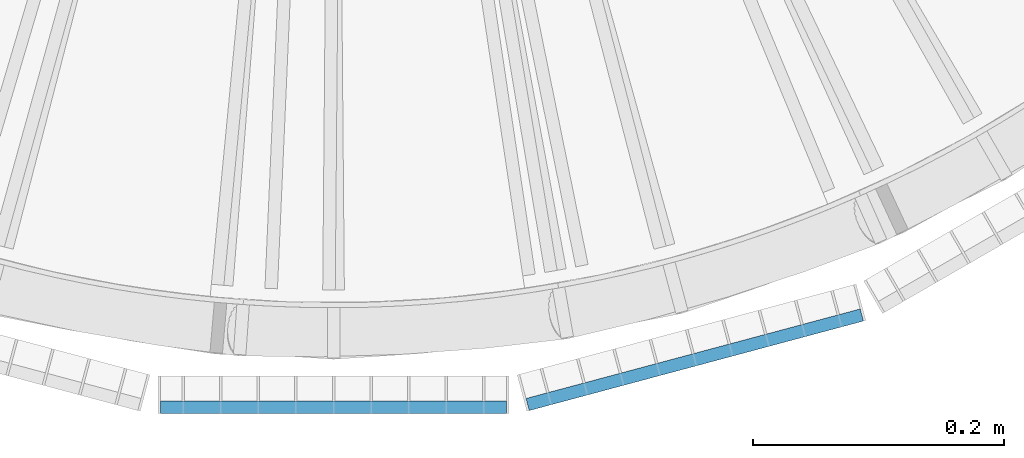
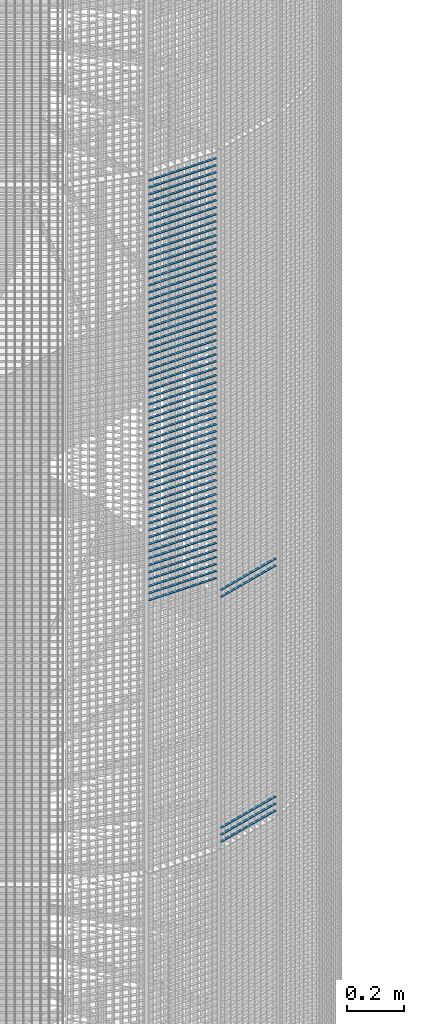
# One storey, part 161 of 1148: 66 beams, 2 elements without a shape of their own.
"""IFC2X3 building model written with IfcOpenShell, lengths in millimetres."""

from ifc_helpers import new_model, si_unit, frame, origin_with_axes, origin_2d_with_axis, place, context, subcontext, project, spatial, rectangle, extrude, material, type_object, element, aggregate, save


model = new_model("IFC2X3")

# Units and contexts
model_context = context("Model", 3, precision=1e-05, world=origin_with_axes())
body_context = subcontext(model_context, "Body", "Model", "MODEL_VIEW")
ifc_project = project(units=[si_unit("LENGTHUNIT", "METRE", prefix="MILLI"), si_unit("AREAUNIT", "SQUARE_METRE"), si_unit("VOLUMEUNIT", "CUBIC_METRE"), si_unit("MASSUNIT", "GRAM", prefix="KILO"), si_unit("TIMEUNIT", "SECOND"), si_unit("PLANEANGLEUNIT", "RADIAN"), si_unit("SOLIDANGLEUNIT", "STERADIAN"), si_unit("THERMODYNAMICTEMPERATUREUNIT", "DEGREE_CELSIUS"), si_unit("LUMINOUSINTENSITYUNIT", "LUMEN")], contexts=[model_context])

# Site, building, storey
site_placement = place(None, origin_with_axes())
site = spatial("IfcSite", under=ifc_project, at=site_placement, Name="Undefined", CompositionType="ELEMENT")
building_placement = place(site_placement, origin_with_axes())
building = spatial("IfcBuilding", under=site, at=building_placement, Name="Undefined", CompositionType="ELEMENT")
storey_placement = place(building_placement, origin_with_axes())
storey = spatial("IfcBuildingStorey", under=building, at=storey_placement, Name="Undefined", CompositionType="ELEMENT", Elevation=0.0)

# Assembly, beams
assembly_1_placement = place(storey_placement, origin_with_axes())
assembly_1 = element("IfcElementAssembly", 1, at=assembly_1_placement, inside=storey, Name="BORDURE", AssemblyPlace="NOTDEFINED", PredefinedType="NOTDEFINED")
ifc_material = material(Name="STEEL/S235JR")
beam_type = type_object("IfcBeamType", Name="PL2*10", PredefinedType="NOTDEFINED")
beam_1_placement = place(assembly_1_placement, frame((154.895926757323, -1111.25508286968, 4080.0), z_axis=(0.258819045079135, -0.965925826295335, 0.0), x_axis=(0.965925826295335, 0.258819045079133, 0.0)))
beam_1 = element("IfcBeam", 2, at=beam_1_placement, type_object=beam_type, material=ifc_material, Name="ENTRETOISE", context=body_context, shape_type="SweptSolid", body=[
    extrude(rectangle(XDim=2.0, YDim=10.0, at=origin_2d_with_axis()), frame((275.999999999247, 9.09494701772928e-13, 1.53210777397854e-14), z_axis=(-1.0, 0.0, 0.0), x_axis=(0.0, -1.0, 0.0)), (0.0, 0.0, 1.0), 276.0),
])
beam_2_placement = place(assembly_1_placement, frame((154.895926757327, -1111.25508286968, 3090.0), z_axis=(0.258819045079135, -0.965925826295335, 0.0), x_axis=(0.965925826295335, 0.258819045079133, 0.0)))
beam_2 = element("IfcBeam", 3, at=beam_2_placement, type_object=beam_type, material=ifc_material, Name="ENTRETOISE", context=body_context, shape_type="SweptSolid", body=[
    extrude(rectangle(XDim=2.0, YDim=10.0, at=origin_2d_with_axis()), frame((275.999999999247, 9.09494701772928e-13, 1.53210777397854e-14), z_axis=(-1.0, 0.0, 0.0), x_axis=(0.0, -1.0, 0.0)), (0.0, 0.0, 1.0), 276.0),
])
beam_3_placement = place(assembly_1_placement, frame((154.895926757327, -1111.25508286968, 3060.0), z_axis=(0.258819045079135, -0.965925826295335, 0.0), x_axis=(0.965925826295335, 0.258819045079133, 0.0)))
beam_3 = element("IfcBeam", 4, at=beam_3_placement, type_object=beam_type, material=ifc_material, Name="ENTRETOISE", context=body_context, shape_type="SweptSolid", body=[
    extrude(rectangle(XDim=2.0, YDim=10.0, at=origin_2d_with_axis()), frame((275.999999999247, 9.09494701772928e-13, 1.53210777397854e-14), z_axis=(-1.0, 0.0, 0.0), x_axis=(0.0, -1.0, 0.0)), (0.0, 0.0, 1.0), 276.0),
])
beam_4_placement = place(assembly_1_placement, frame((154.895926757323, -1111.25508286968, 4110.0), z_axis=(0.258819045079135, -0.965925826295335, 0.0), x_axis=(0.965925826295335, 0.258819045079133, 0.0)))
beam_4 = element("IfcBeam", 5, at=beam_4_placement, type_object=beam_type, material=ifc_material, Name="ENTRETOISE", context=body_context, shape_type="SweptSolid", body=[
    extrude(rectangle(XDim=2.0, YDim=10.0, at=origin_2d_with_axis()), frame((275.999999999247, 9.09494701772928e-13, 1.53210777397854e-14), z_axis=(-1.0, 0.0, 0.0), x_axis=(0.0, -1.0, 0.0)), (0.0, 0.0, 1.0), 276.0),
])
beam_5_placement = place(assembly_1_placement, frame((154.895926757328, -1111.25508286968, 3030.0), z_axis=(0.258819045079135, -0.965925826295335, 0.0), x_axis=(0.965925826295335, 0.258819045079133, 0.0)))
beam_5 = element("IfcBeam", 6, at=beam_5_placement, type_object=beam_type, material=ifc_material, Name="ENTRETOISE", context=body_context, shape_type="SweptSolid", body=[
    extrude(rectangle(XDim=2.0, YDim=10.0, at=origin_2d_with_axis()), frame((275.999999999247, 9.09494701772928e-13, 1.53210777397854e-14), z_axis=(-1.0, 0.0, 0.0), x_axis=(0.0, -1.0, 0.0)), (0.0, 0.0, 1.0), 276.0),
])
aggregate(assembly_1, [beam_1, beam_2, beam_3, beam_4, beam_5])

assembly_2_placement = place(storey_placement, origin_with_axes())
assembly_2 = element("IfcElementAssembly", 7, at=assembly_2_placement, inside=storey, Name="BORDURE", AssemblyPlace="NOTDEFINED", PredefinedType="NOTDEFINED")
beam_6_placement = place(assembly_2_placement, frame((-137.996003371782, -1113.47999999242, 5970.0), z_axis=(0.0, -1.0, 0.0), x_axis=(1.0, 0.0, 0.0)))
beam_6 = element("IfcBeam", 8, at=beam_6_placement, type_object=beam_type, material=ifc_material, Name="ENTRETOISE", context=body_context, shape_type="SweptSolid", body=[
    extrude(rectangle(XDim=2.0, YDim=10.0, at=origin_2d_with_axis()), frame((275.999999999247, 9.09494701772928e-13, 1.53210777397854e-14), z_axis=(-1.0, 0.0, 0.0), x_axis=(0.0, -1.0, 0.0)), (0.0, 0.0, 1.0), 276.0),
])
beam_7_placement = place(assembly_2_placement, frame((-137.996003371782, -1113.47999999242, 5940.0), z_axis=(0.0, -1.0, 0.0), x_axis=(1.0, 0.0, 0.0)))
beam_7 = element("IfcBeam", 9, at=beam_7_placement, type_object=beam_type, material=ifc_material, Name="ENTRETOISE", context=body_context, shape_type="SweptSolid", body=[
    extrude(rectangle(XDim=2.0, YDim=10.0, at=origin_2d_with_axis()), frame((275.999999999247, 9.09494701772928e-13, 1.53210777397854e-14), z_axis=(-1.0, 0.0, 0.0), x_axis=(0.0, -1.0, 0.0)), (0.0, 0.0, 1.0), 276.0),
])
beam_8_placement = place(assembly_2_placement, frame((-137.996003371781, -1113.47999999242, 5910.0), z_axis=(0.0, -1.0, 0.0), x_axis=(1.0, 0.0, 0.0)))
beam_8 = element("IfcBeam", 10, at=beam_8_placement, type_object=beam_type, material=ifc_material, Name="ENTRETOISE", context=body_context, shape_type="SweptSolid", body=[
    extrude(rectangle(XDim=2.0, YDim=10.0, at=origin_2d_with_axis()), frame((275.999999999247, 9.09494701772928e-13, 1.53210777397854e-14), z_axis=(-1.0, 0.0, 0.0), x_axis=(0.0, -1.0, 0.0)), (0.0, 0.0, 1.0), 276.0),
])
beam_9_placement = place(assembly_2_placement, frame((-137.996003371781, -1113.47999999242, 5880.0), z_axis=(0.0, -1.0, 0.0), x_axis=(1.0, 0.0, 0.0)))
beam_9 = element("IfcBeam", 11, at=beam_9_placement, type_object=beam_type, material=ifc_material, Name="ENTRETOISE", context=body_context, shape_type="SweptSolid", body=[
    extrude(rectangle(XDim=2.0, YDim=10.0, at=origin_2d_with_axis()), frame((275.999999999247, 9.09494701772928e-13, 1.53210777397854e-14), z_axis=(-1.0, 0.0, 0.0), x_axis=(0.0, -1.0, 0.0)), (0.0, 0.0, 1.0), 276.0),
])
beam_10_placement = place(assembly_2_placement, frame((-137.996003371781, -1113.47999999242, 5850.0), z_axis=(0.0, -1.0, 0.0), x_axis=(1.0, 0.0, 0.0)))
beam_10 = element("IfcBeam", 12, at=beam_10_placement, type_object=beam_type, material=ifc_material, Name="ENTRETOISE", context=body_context, shape_type="SweptSolid", body=[
    extrude(rectangle(XDim=2.0, YDim=10.0, at=origin_2d_with_axis()), frame((275.999999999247, 9.09494701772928e-13, 1.53210777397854e-14), z_axis=(-1.0, 0.0, 0.0), x_axis=(0.0, -1.0, 0.0)), (0.0, 0.0, 1.0), 276.0),
])
beam_11_placement = place(assembly_2_placement, frame((-137.996003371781, -1113.47999999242, 5820.0), z_axis=(0.0, -1.0, 0.0), x_axis=(1.0, 0.0, 0.0)))
beam_11 = element("IfcBeam", 13, at=beam_11_placement, type_object=beam_type, material=ifc_material, Name="ENTRETOISE", context=body_context, shape_type="SweptSolid", body=[
    extrude(rectangle(XDim=2.0, YDim=10.0, at=origin_2d_with_axis()), frame((275.999999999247, 9.09494701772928e-13, 1.53210777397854e-14), z_axis=(-1.0, 0.0, 0.0), x_axis=(0.0, -1.0, 0.0)), (0.0, 0.0, 1.0), 276.0),
])
beam_12_placement = place(assembly_2_placement, frame((-137.996003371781, -1113.47999999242, 5790.0), z_axis=(0.0, -1.0, 0.0), x_axis=(1.0, 0.0, 0.0)))
beam_12 = element("IfcBeam", 14, at=beam_12_placement, type_object=beam_type, material=ifc_material, Name="ENTRETOISE", context=body_context, shape_type="SweptSolid", body=[
    extrude(rectangle(XDim=2.0, YDim=10.0, at=origin_2d_with_axis()), frame((275.999999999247, 9.09494701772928e-13, 1.53210777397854e-14), z_axis=(-1.0, 0.0, 0.0), x_axis=(0.0, -1.0, 0.0)), (0.0, 0.0, 1.0), 276.0),
])
beam_13_placement = place(assembly_2_placement, frame((-137.996003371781, -1113.47999999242, 5760.0), z_axis=(0.0, -1.0, 0.0), x_axis=(1.0, 0.0, 0.0)))
beam_13 = element("IfcBeam", 15, at=beam_13_placement, type_object=beam_type, material=ifc_material, Name="ENTRETOISE", context=body_context, shape_type="SweptSolid", body=[
    extrude(rectangle(XDim=2.0, YDim=10.0, at=origin_2d_with_axis()), frame((275.999999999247, 9.09494701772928e-13, 1.53210777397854e-14), z_axis=(-1.0, 0.0, 0.0), x_axis=(0.0, -1.0, 0.0)), (0.0, 0.0, 1.0), 276.0),
])
beam_14_placement = place(assembly_2_placement, frame((-137.996003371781, -1113.47999999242, 5730.0), z_axis=(0.0, -1.0, 0.0), x_axis=(1.0, 0.0, 0.0)))
beam_14 = element("IfcBeam", 16, at=beam_14_placement, type_object=beam_type, material=ifc_material, Name="ENTRETOISE", context=body_context, shape_type="SweptSolid", body=[
    extrude(rectangle(XDim=2.0, YDim=10.0, at=origin_2d_with_axis()), frame((275.999999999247, 9.09494701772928e-13, 1.53210777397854e-14), z_axis=(-1.0, 0.0, 0.0), x_axis=(0.0, -1.0, 0.0)), (0.0, 0.0, 1.0), 276.0),
])
beam_15_placement = place(assembly_2_placement, frame((-137.996003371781, -1113.47999999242, 5700.0), z_axis=(0.0, -1.0, 0.0), x_axis=(1.0, 0.0, 0.0)))
beam_15 = element("IfcBeam", 17, at=beam_15_placement, type_object=beam_type, material=ifc_material, Name="ENTRETOISE", context=body_context, shape_type="SweptSolid", body=[
    extrude(rectangle(XDim=2.0, YDim=10.0, at=origin_2d_with_axis()), frame((275.999999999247, 9.09494701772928e-13, 1.53210777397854e-14), z_axis=(-1.0, 0.0, 0.0), x_axis=(0.0, -1.0, 0.0)), (0.0, 0.0, 1.0), 276.0),
])
beam_16_placement = place(assembly_2_placement, frame((-137.996003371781, -1113.47999999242, 5670.0), z_axis=(0.0, -1.0, 0.0), x_axis=(1.0, 0.0, 0.0)))
beam_16 = element("IfcBeam", 18, at=beam_16_placement, type_object=beam_type, material=ifc_material, Name="ENTRETOISE", context=body_context, shape_type="SweptSolid", body=[
    extrude(rectangle(XDim=2.0, YDim=10.0, at=origin_2d_with_axis()), frame((275.999999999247, 9.09494701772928e-13, 1.53210777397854e-14), z_axis=(-1.0, 0.0, 0.0), x_axis=(0.0, -1.0, 0.0)), (0.0, 0.0, 1.0), 276.0),
])
beam_17_placement = place(assembly_2_placement, frame((-137.996003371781, -1113.47999999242, 5640.0), z_axis=(0.0, -1.0, 0.0), x_axis=(1.0, 0.0, 0.0)))
beam_17 = element("IfcBeam", 19, at=beam_17_placement, type_object=beam_type, material=ifc_material, Name="ENTRETOISE", context=body_context, shape_type="SweptSolid", body=[
    extrude(rectangle(XDim=2.0, YDim=10.0, at=origin_2d_with_axis()), frame((275.999999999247, 9.09494701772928e-13, 1.53210777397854e-14), z_axis=(-1.0, 0.0, 0.0), x_axis=(0.0, -1.0, 0.0)), (0.0, 0.0, 1.0), 276.0),
])
beam_18_placement = place(assembly_2_placement, frame((-137.99600337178, -1113.47999999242, 5610.0), z_axis=(0.0, -1.0, 0.0), x_axis=(1.0, 0.0, 0.0)))
beam_18 = element("IfcBeam", 20, at=beam_18_placement, type_object=beam_type, material=ifc_material, Name="ENTRETOISE", context=body_context, shape_type="SweptSolid", body=[
    extrude(rectangle(XDim=2.0, YDim=10.0, at=origin_2d_with_axis()), frame((275.999999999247, 9.09494701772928e-13, 1.53210777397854e-14), z_axis=(-1.0, 0.0, 0.0), x_axis=(0.0, -1.0, 0.0)), (0.0, 0.0, 1.0), 276.0),
])
beam_19_placement = place(assembly_2_placement, frame((-137.99600337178, -1113.47999999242, 5580.0), z_axis=(0.0, -1.0, 0.0), x_axis=(1.0, 0.0, 0.0)))
beam_19 = element("IfcBeam", 21, at=beam_19_placement, type_object=beam_type, material=ifc_material, Name="ENTRETOISE", context=body_context, shape_type="SweptSolid", body=[
    extrude(rectangle(XDim=2.0, YDim=10.0, at=origin_2d_with_axis()), frame((275.999999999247, 9.09494701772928e-13, 1.53210777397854e-14), z_axis=(-1.0, 0.0, 0.0), x_axis=(0.0, -1.0, 0.0)), (0.0, 0.0, 1.0), 276.0),
])
beam_20_placement = place(assembly_2_placement, frame((-137.99600337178, -1113.47999999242, 5550.0), z_axis=(0.0, -1.0, 0.0), x_axis=(1.0, 0.0, 0.0)))
beam_20 = element("IfcBeam", 22, at=beam_20_placement, type_object=beam_type, material=ifc_material, Name="ENTRETOISE", context=body_context, shape_type="SweptSolid", body=[
    extrude(rectangle(XDim=2.0, YDim=10.0, at=origin_2d_with_axis()), frame((275.999999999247, 9.09494701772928e-13, 1.53210777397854e-14), z_axis=(-1.0, 0.0, 0.0), x_axis=(0.0, -1.0, 0.0)), (0.0, 0.0, 1.0), 276.0),
])
beam_21_placement = place(assembly_2_placement, frame((-137.99600337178, -1113.47999999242, 5520.0), z_axis=(0.0, -1.0, 0.0), x_axis=(1.0, 0.0, 0.0)))
beam_21 = element("IfcBeam", 23, at=beam_21_placement, type_object=beam_type, material=ifc_material, Name="ENTRETOISE", context=body_context, shape_type="SweptSolid", body=[
    extrude(rectangle(XDim=2.0, YDim=10.0, at=origin_2d_with_axis()), frame((275.999999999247, 9.09494701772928e-13, 1.53210777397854e-14), z_axis=(-1.0, 0.0, 0.0), x_axis=(0.0, -1.0, 0.0)), (0.0, 0.0, 1.0), 276.0),
])
beam_22_placement = place(assembly_2_placement, frame((-137.99600337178, -1113.47999999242, 5490.0), z_axis=(0.0, -1.0, 0.0), x_axis=(1.0, 0.0, 0.0)))
beam_22 = element("IfcBeam", 24, at=beam_22_placement, type_object=beam_type, material=ifc_material, Name="ENTRETOISE", context=body_context, shape_type="SweptSolid", body=[
    extrude(rectangle(XDim=2.0, YDim=10.0, at=origin_2d_with_axis()), frame((275.999999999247, 9.09494701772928e-13, 1.53210777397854e-14), z_axis=(-1.0, 0.0, 0.0), x_axis=(0.0, -1.0, 0.0)), (0.0, 0.0, 1.0), 276.0),
])
beam_23_placement = place(assembly_2_placement, frame((-137.99600337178, -1113.47999999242, 5460.0), z_axis=(0.0, -1.0, 0.0), x_axis=(1.0, 0.0, 0.0)))
beam_23 = element("IfcBeam", 25, at=beam_23_placement, type_object=beam_type, material=ifc_material, Name="ENTRETOISE", context=body_context, shape_type="SweptSolid", body=[
    extrude(rectangle(XDim=2.0, YDim=10.0, at=origin_2d_with_axis()), frame((275.999999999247, 9.09494701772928e-13, 1.53210777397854e-14), z_axis=(-1.0, 0.0, 0.0), x_axis=(0.0, -1.0, 0.0)), (0.0, 0.0, 1.0), 276.0),
])
beam_24_placement = place(assembly_2_placement, frame((-137.99600337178, -1113.47999999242, 5430.0), z_axis=(0.0, -1.0, 0.0), x_axis=(1.0, 0.0, 0.0)))
beam_24 = element("IfcBeam", 26, at=beam_24_placement, type_object=beam_type, material=ifc_material, Name="ENTRETOISE", context=body_context, shape_type="SweptSolid", body=[
    extrude(rectangle(XDim=2.0, YDim=10.0, at=origin_2d_with_axis()), frame((275.999999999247, 9.09494701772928e-13, 1.53210777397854e-14), z_axis=(-1.0, 0.0, 0.0), x_axis=(0.0, -1.0, 0.0)), (0.0, 0.0, 1.0), 276.0),
])
beam_25_placement = place(assembly_2_placement, frame((-137.99600337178, -1113.47999999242, 5400.0), z_axis=(0.0, -1.0, 0.0), x_axis=(1.0, 0.0, 0.0)))
beam_25 = element("IfcBeam", 27, at=beam_25_placement, type_object=beam_type, material=ifc_material, Name="ENTRETOISE", context=body_context, shape_type="SweptSolid", body=[
    extrude(rectangle(XDim=2.0, YDim=10.0, at=origin_2d_with_axis()), frame((275.999999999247, 9.09494701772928e-13, 1.53210777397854e-14), z_axis=(-1.0, 0.0, 0.0), x_axis=(0.0, -1.0, 0.0)), (0.0, 0.0, 1.0), 276.0),
])
beam_26_placement = place(assembly_2_placement, frame((-137.99600337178, -1113.47999999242, 5370.0), z_axis=(0.0, -1.0, 0.0), x_axis=(1.0, 0.0, 0.0)))
beam_26 = element("IfcBeam", 28, at=beam_26_placement, type_object=beam_type, material=ifc_material, Name="ENTRETOISE", context=body_context, shape_type="SweptSolid", body=[
    extrude(rectangle(XDim=2.0, YDim=10.0, at=origin_2d_with_axis()), frame((275.999999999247, 9.09494701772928e-13, 1.53210777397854e-14), z_axis=(-1.0, 0.0, 0.0), x_axis=(0.0, -1.0, 0.0)), (0.0, 0.0, 1.0), 276.0),
])
beam_27_placement = place(assembly_2_placement, frame((-137.99600337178, -1113.47999999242, 5340.0), z_axis=(0.0, -1.0, 0.0), x_axis=(1.0, 0.0, 0.0)))
beam_27 = element("IfcBeam", 29, at=beam_27_placement, type_object=beam_type, material=ifc_material, Name="ENTRETOISE", context=body_context, shape_type="SweptSolid", body=[
    extrude(rectangle(XDim=2.0, YDim=10.0, at=origin_2d_with_axis()), frame((275.999999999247, 9.09494701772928e-13, 1.53210777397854e-14), z_axis=(-1.0, 0.0, 0.0), x_axis=(0.0, -1.0, 0.0)), (0.0, 0.0, 1.0), 276.0),
])
beam_28_placement = place(assembly_2_placement, frame((-137.996003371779, -1113.47999999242, 5310.0), z_axis=(0.0, -1.0, 0.0), x_axis=(1.0, 0.0, 0.0)))
beam_28 = element("IfcBeam", 30, at=beam_28_placement, type_object=beam_type, material=ifc_material, Name="ENTRETOISE", context=body_context, shape_type="SweptSolid", body=[
    extrude(rectangle(XDim=2.0, YDim=10.0, at=origin_2d_with_axis()), frame((275.999999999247, 9.09494701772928e-13, 1.53210777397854e-14), z_axis=(-1.0, 0.0, 0.0), x_axis=(0.0, -1.0, 0.0)), (0.0, 0.0, 1.0), 276.0),
])
beam_29_placement = place(assembly_2_placement, frame((-137.996003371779, -1113.47999999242, 5280.0), z_axis=(0.0, -1.0, 0.0), x_axis=(1.0, 0.0, 0.0)))
beam_29 = element("IfcBeam", 31, at=beam_29_placement, type_object=beam_type, material=ifc_material, Name="ENTRETOISE", context=body_context, shape_type="SweptSolid", body=[
    extrude(rectangle(XDim=2.0, YDim=10.0, at=origin_2d_with_axis()), frame((275.999999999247, 9.09494701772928e-13, 1.53210777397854e-14), z_axis=(-1.0, 0.0, 0.0), x_axis=(0.0, -1.0, 0.0)), (0.0, 0.0, 1.0), 276.0),
])
beam_30_placement = place(assembly_2_placement, frame((-137.996003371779, -1113.47999999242, 5250.0), z_axis=(0.0, -1.0, 0.0), x_axis=(1.0, 0.0, 0.0)))
beam_30 = element("IfcBeam", 32, at=beam_30_placement, type_object=beam_type, material=ifc_material, Name="ENTRETOISE", context=body_context, shape_type="SweptSolid", body=[
    extrude(rectangle(XDim=2.0, YDim=10.0, at=origin_2d_with_axis()), frame((275.999999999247, 9.09494701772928e-13, 1.53210777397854e-14), z_axis=(-1.0, 0.0, 0.0), x_axis=(0.0, -1.0, 0.0)), (0.0, 0.0, 1.0), 276.0),
])
beam_31_placement = place(assembly_2_placement, frame((-137.996003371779, -1113.47999999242, 5220.0), z_axis=(0.0, -1.0, 0.0), x_axis=(1.0, 0.0, 0.0)))
beam_31 = element("IfcBeam", 33, at=beam_31_placement, type_object=beam_type, material=ifc_material, Name="ENTRETOISE", context=body_context, shape_type="SweptSolid", body=[
    extrude(rectangle(XDim=2.0, YDim=10.0, at=origin_2d_with_axis()), frame((275.999999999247, 9.09494701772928e-13, 1.53210777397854e-14), z_axis=(-1.0, 0.0, 0.0), x_axis=(0.0, -1.0, 0.0)), (0.0, 0.0, 1.0), 276.0),
])
beam_32_placement = place(assembly_2_placement, frame((-137.996003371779, -1113.47999999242, 5190.0), z_axis=(0.0, -1.0, 0.0), x_axis=(1.0, 0.0, 0.0)))
beam_32 = element("IfcBeam", 34, at=beam_32_placement, type_object=beam_type, material=ifc_material, Name="ENTRETOISE", context=body_context, shape_type="SweptSolid", body=[
    extrude(rectangle(XDim=2.0, YDim=10.0, at=origin_2d_with_axis()), frame((275.999999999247, 9.09494701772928e-13, 1.53210777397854e-14), z_axis=(-1.0, 0.0, 0.0), x_axis=(0.0, -1.0, 0.0)), (0.0, 0.0, 1.0), 276.0),
])
beam_33_placement = place(assembly_2_placement, frame((-137.996003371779, -1113.47999999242, 5160.0), z_axis=(0.0, -1.0, 0.0), x_axis=(1.0, 0.0, 0.0)))
beam_33 = element("IfcBeam", 35, at=beam_33_placement, type_object=beam_type, material=ifc_material, Name="ENTRETOISE", context=body_context, shape_type="SweptSolid", body=[
    extrude(rectangle(XDim=2.0, YDim=10.0, at=origin_2d_with_axis()), frame((275.999999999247, 9.09494701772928e-13, 1.53210777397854e-14), z_axis=(-1.0, 0.0, 0.0), x_axis=(0.0, -1.0, 0.0)), (0.0, 0.0, 1.0), 276.0),
])
beam_34_placement = place(assembly_2_placement, frame((-137.996003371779, -1113.47999999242, 5130.0), z_axis=(0.0, -1.0, 0.0), x_axis=(1.0, 0.0, 0.0)))
beam_34 = element("IfcBeam", 36, at=beam_34_placement, type_object=beam_type, material=ifc_material, Name="ENTRETOISE", context=body_context, shape_type="SweptSolid", body=[
    extrude(rectangle(XDim=2.0, YDim=10.0, at=origin_2d_with_axis()), frame((275.999999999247, 9.09494701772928e-13, 1.53210777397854e-14), z_axis=(-1.0, 0.0, 0.0), x_axis=(0.0, -1.0, 0.0)), (0.0, 0.0, 1.0), 276.0),
])
beam_35_placement = place(assembly_2_placement, frame((-137.996003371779, -1113.47999999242, 5100.0), z_axis=(0.0, -1.0, 0.0), x_axis=(1.0, 0.0, 0.0)))
beam_35 = element("IfcBeam", 37, at=beam_35_placement, type_object=beam_type, material=ifc_material, Name="ENTRETOISE", context=body_context, shape_type="SweptSolid", body=[
    extrude(rectangle(XDim=2.0, YDim=10.0, at=origin_2d_with_axis()), frame((275.999999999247, 9.09494701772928e-13, 1.53210777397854e-14), z_axis=(-1.0, 0.0, 0.0), x_axis=(0.0, -1.0, 0.0)), (0.0, 0.0, 1.0), 276.0),
])
beam_36_placement = place(assembly_2_placement, frame((-137.996003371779, -1113.47999999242, 5070.0), z_axis=(0.0, -1.0, 0.0), x_axis=(1.0, 0.0, 0.0)))
beam_36 = element("IfcBeam", 38, at=beam_36_placement, type_object=beam_type, material=ifc_material, Name="ENTRETOISE", context=body_context, shape_type="SweptSolid", body=[
    extrude(rectangle(XDim=2.0, YDim=10.0, at=origin_2d_with_axis()), frame((275.999999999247, 9.09494701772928e-13, 1.53210777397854e-14), z_axis=(-1.0, 0.0, 0.0), x_axis=(0.0, -1.0, 0.0)), (0.0, 0.0, 1.0), 276.0),
])
beam_37_placement = place(assembly_2_placement, frame((-137.996003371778, -1113.47999999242, 5040.0), z_axis=(0.0, -1.0, 0.0), x_axis=(1.0, 0.0, 0.0)))
beam_37 = element("IfcBeam", 39, at=beam_37_placement, type_object=beam_type, material=ifc_material, Name="ENTRETOISE", context=body_context, shape_type="SweptSolid", body=[
    extrude(rectangle(XDim=2.0, YDim=10.0, at=origin_2d_with_axis()), frame((275.999999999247, 9.09494701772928e-13, 1.53210777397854e-14), z_axis=(-1.0, 0.0, 0.0), x_axis=(0.0, -1.0, 0.0)), (0.0, 0.0, 1.0), 276.0),
])
beam_38_placement = place(assembly_2_placement, frame((-137.996003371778, -1113.47999999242, 5010.0), z_axis=(0.0, -1.0, 0.0), x_axis=(1.0, 0.0, 0.0)))
beam_38 = element("IfcBeam", 40, at=beam_38_placement, type_object=beam_type, material=ifc_material, Name="ENTRETOISE", context=body_context, shape_type="SweptSolid", body=[
    extrude(rectangle(XDim=2.0, YDim=10.0, at=origin_2d_with_axis()), frame((275.999999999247, 9.09494701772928e-13, 1.53210777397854e-14), z_axis=(-1.0, 0.0, 0.0), x_axis=(0.0, -1.0, 0.0)), (0.0, 0.0, 1.0), 276.0),
])
beam_39_placement = place(assembly_2_placement, frame((-137.996003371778, -1113.47999999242, 4980.0), z_axis=(0.0, -1.0, 0.0), x_axis=(1.0, 0.0, 0.0)))
beam_39 = element("IfcBeam", 41, at=beam_39_placement, type_object=beam_type, material=ifc_material, Name="ENTRETOISE", context=body_context, shape_type="SweptSolid", body=[
    extrude(rectangle(XDim=2.0, YDim=10.0, at=origin_2d_with_axis()), frame((275.999999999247, 9.09494701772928e-13, 1.53210777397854e-14), z_axis=(-1.0, 0.0, 0.0), x_axis=(0.0, -1.0, 0.0)), (0.0, 0.0, 1.0), 276.0),
])
beam_40_placement = place(assembly_2_placement, frame((-137.996003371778, -1113.47999999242, 4950.0), z_axis=(0.0, -1.0, 0.0), x_axis=(1.0, 0.0, 0.0)))
beam_40 = element("IfcBeam", 42, at=beam_40_placement, type_object=beam_type, material=ifc_material, Name="ENTRETOISE", context=body_context, shape_type="SweptSolid", body=[
    extrude(rectangle(XDim=2.0, YDim=10.0, at=origin_2d_with_axis()), frame((275.999999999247, 9.09494701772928e-13, 1.53210777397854e-14), z_axis=(-1.0, 0.0, 0.0), x_axis=(0.0, -1.0, 0.0)), (0.0, 0.0, 1.0), 276.0),
])
beam_41_placement = place(assembly_2_placement, frame((-137.996003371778, -1113.47999999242, 4920.0), z_axis=(0.0, -1.0, 0.0), x_axis=(1.0, 0.0, 0.0)))
beam_41 = element("IfcBeam", 43, at=beam_41_placement, type_object=beam_type, material=ifc_material, Name="ENTRETOISE", context=body_context, shape_type="SweptSolid", body=[
    extrude(rectangle(XDim=2.0, YDim=10.0, at=origin_2d_with_axis()), frame((275.999999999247, 9.09494701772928e-13, 1.53210777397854e-14), z_axis=(-1.0, 0.0, 0.0), x_axis=(0.0, -1.0, 0.0)), (0.0, 0.0, 1.0), 276.0),
])
beam_42_placement = place(assembly_2_placement, frame((-137.996003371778, -1113.47999999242, 4890.0), z_axis=(0.0, -1.0, 0.0), x_axis=(1.0, 0.0, 0.0)))
beam_42 = element("IfcBeam", 44, at=beam_42_placement, type_object=beam_type, material=ifc_material, Name="ENTRETOISE", context=body_context, shape_type="SweptSolid", body=[
    extrude(rectangle(XDim=2.0, YDim=10.0, at=origin_2d_with_axis()), frame((275.999999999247, 9.09494701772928e-13, 1.53210777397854e-14), z_axis=(-1.0, 0.0, 0.0), x_axis=(0.0, -1.0, 0.0)), (0.0, 0.0, 1.0), 276.0),
])
beam_43_placement = place(assembly_2_placement, frame((-137.996003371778, -1113.47999999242, 4860.0), z_axis=(0.0, -1.0, 0.0), x_axis=(1.0, 0.0, 0.0)))
beam_43 = element("IfcBeam", 45, at=beam_43_placement, type_object=beam_type, material=ifc_material, Name="ENTRETOISE", context=body_context, shape_type="SweptSolid", body=[
    extrude(rectangle(XDim=2.0, YDim=10.0, at=origin_2d_with_axis()), frame((275.999999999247, 9.09494701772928e-13, 1.53210777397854e-14), z_axis=(-1.0, 0.0, 0.0), x_axis=(0.0, -1.0, 0.0)), (0.0, 0.0, 1.0), 276.0),
])
beam_44_placement = place(assembly_2_placement, frame((-137.996003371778, -1113.47999999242, 4830.0), z_axis=(0.0, -1.0, 0.0), x_axis=(1.0, 0.0, 0.0)))
beam_44 = element("IfcBeam", 46, at=beam_44_placement, type_object=beam_type, material=ifc_material, Name="ENTRETOISE", context=body_context, shape_type="SweptSolid", body=[
    extrude(rectangle(XDim=2.0, YDim=10.0, at=origin_2d_with_axis()), frame((275.999999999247, 9.09494701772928e-13, 1.53210777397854e-14), z_axis=(-1.0, 0.0, 0.0), x_axis=(0.0, -1.0, 0.0)), (0.0, 0.0, 1.0), 276.0),
])
beam_45_placement = place(assembly_2_placement, frame((-137.996003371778, -1113.47999999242, 4800.0), z_axis=(0.0, -1.0, 0.0), x_axis=(1.0, 0.0, 0.0)))
beam_45 = element("IfcBeam", 47, at=beam_45_placement, type_object=beam_type, material=ifc_material, Name="ENTRETOISE", context=body_context, shape_type="SweptSolid", body=[
    extrude(rectangle(XDim=2.0, YDim=10.0, at=origin_2d_with_axis()), frame((275.999999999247, 9.09494701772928e-13, 1.53210777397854e-14), z_axis=(-1.0, 0.0, 0.0), x_axis=(0.0, -1.0, 0.0)), (0.0, 0.0, 1.0), 276.0),
])
beam_46_placement = place(assembly_2_placement, frame((-137.996003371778, -1113.47999999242, 4770.0), z_axis=(0.0, -1.0, 0.0), x_axis=(1.0, 0.0, 0.0)))
beam_46 = element("IfcBeam", 48, at=beam_46_placement, type_object=beam_type, material=ifc_material, Name="ENTRETOISE", context=body_context, shape_type="SweptSolid", body=[
    extrude(rectangle(XDim=2.0, YDim=10.0, at=origin_2d_with_axis()), frame((275.999999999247, 9.09494701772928e-13, 1.53210777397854e-14), z_axis=(-1.0, 0.0, 0.0), x_axis=(0.0, -1.0, 0.0)), (0.0, 0.0, 1.0), 276.0),
])
beam_47_placement = place(assembly_2_placement, frame((-137.996003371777, -1113.47999999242, 4740.0), z_axis=(0.0, -1.0, 0.0), x_axis=(1.0, 0.0, 0.0)))
beam_47 = element("IfcBeam", 49, at=beam_47_placement, type_object=beam_type, material=ifc_material, Name="ENTRETOISE", context=body_context, shape_type="SweptSolid", body=[
    extrude(rectangle(XDim=2.0, YDim=10.0, at=origin_2d_with_axis()), frame((275.999999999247, 9.09494701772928e-13, 1.53210777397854e-14), z_axis=(-1.0, 0.0, 0.0), x_axis=(0.0, -1.0, 0.0)), (0.0, 0.0, 1.0), 276.0),
])
beam_48_placement = place(assembly_2_placement, frame((-137.996003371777, -1113.47999999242, 4710.0), z_axis=(0.0, -1.0, 0.0), x_axis=(1.0, 0.0, 0.0)))
beam_48 = element("IfcBeam", 50, at=beam_48_placement, type_object=beam_type, material=ifc_material, Name="ENTRETOISE", context=body_context, shape_type="SweptSolid", body=[
    extrude(rectangle(XDim=2.0, YDim=10.0, at=origin_2d_with_axis()), frame((275.999999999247, 9.09494701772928e-13, 1.53210777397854e-14), z_axis=(-1.0, 0.0, 0.0), x_axis=(0.0, -1.0, 0.0)), (0.0, 0.0, 1.0), 276.0),
])
beam_49_placement = place(assembly_2_placement, frame((-137.996003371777, -1113.47999999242, 4680.0), z_axis=(0.0, -1.0, 0.0), x_axis=(1.0, 0.0, 0.0)))
beam_49 = element("IfcBeam", 51, at=beam_49_placement, type_object=beam_type, material=ifc_material, Name="ENTRETOISE", context=body_context, shape_type="SweptSolid", body=[
    extrude(rectangle(XDim=2.0, YDim=10.0, at=origin_2d_with_axis()), frame((275.999999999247, 9.09494701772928e-13, 1.53210777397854e-14), z_axis=(-1.0, 0.0, 0.0), x_axis=(0.0, -1.0, 0.0)), (0.0, 0.0, 1.0), 276.0),
])
beam_50_placement = place(assembly_2_placement, frame((-137.996003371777, -1113.47999999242, 4650.0), z_axis=(0.0, -1.0, 0.0), x_axis=(1.0, 0.0, 0.0)))
beam_50 = element("IfcBeam", 52, at=beam_50_placement, type_object=beam_type, material=ifc_material, Name="ENTRETOISE", context=body_context, shape_type="SweptSolid", body=[
    extrude(rectangle(XDim=2.0, YDim=10.0, at=origin_2d_with_axis()), frame((275.999999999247, 9.09494701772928e-13, 1.53210777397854e-14), z_axis=(-1.0, 0.0, 0.0), x_axis=(0.0, -1.0, 0.0)), (0.0, 0.0, 1.0), 276.0),
])
beam_51_placement = place(assembly_2_placement, frame((-137.996003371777, -1113.47999999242, 4620.0), z_axis=(0.0, -1.0, 0.0), x_axis=(1.0, 0.0, 0.0)))
beam_51 = element("IfcBeam", 53, at=beam_51_placement, type_object=beam_type, material=ifc_material, Name="ENTRETOISE", context=body_context, shape_type="SweptSolid", body=[
    extrude(rectangle(XDim=2.0, YDim=10.0, at=origin_2d_with_axis()), frame((275.999999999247, 9.09494701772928e-13, 1.53210777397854e-14), z_axis=(-1.0, 0.0, 0.0), x_axis=(0.0, -1.0, 0.0)), (0.0, 0.0, 1.0), 276.0),
])
beam_52_placement = place(assembly_2_placement, frame((-137.996003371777, -1113.47999999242, 4590.0), z_axis=(0.0, -1.0, 0.0), x_axis=(1.0, 0.0, 0.0)))
beam_52 = element("IfcBeam", 54, at=beam_52_placement, type_object=beam_type, material=ifc_material, Name="ENTRETOISE", context=body_context, shape_type="SweptSolid", body=[
    extrude(rectangle(XDim=2.0, YDim=10.0, at=origin_2d_with_axis()), frame((275.999999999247, 9.09494701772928e-13, 1.53210777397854e-14), z_axis=(-1.0, 0.0, 0.0), x_axis=(0.0, -1.0, 0.0)), (0.0, 0.0, 1.0), 276.0),
])
beam_53_placement = place(assembly_2_placement, frame((-137.996003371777, -1113.47999999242, 4560.0), z_axis=(0.0, -1.0, 0.0), x_axis=(1.0, 0.0, 0.0)))
beam_53 = element("IfcBeam", 55, at=beam_53_placement, type_object=beam_type, material=ifc_material, Name="ENTRETOISE", context=body_context, shape_type="SweptSolid", body=[
    extrude(rectangle(XDim=2.0, YDim=10.0, at=origin_2d_with_axis()), frame((275.999999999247, 9.09494701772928e-13, 1.53210777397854e-14), z_axis=(-1.0, 0.0, 0.0), x_axis=(0.0, -1.0, 0.0)), (0.0, 0.0, 1.0), 276.0),
])
beam_54_placement = place(assembly_2_placement, frame((-137.996003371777, -1113.47999999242, 4530.0), z_axis=(0.0, -1.0, 0.0), x_axis=(1.0, 0.0, 0.0)))
beam_54 = element("IfcBeam", 56, at=beam_54_placement, type_object=beam_type, material=ifc_material, Name="ENTRETOISE", context=body_context, shape_type="SweptSolid", body=[
    extrude(rectangle(XDim=2.0, YDim=10.0, at=origin_2d_with_axis()), frame((275.999999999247, 9.09494701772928e-13, 1.53210777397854e-14), z_axis=(-1.0, 0.0, 0.0), x_axis=(0.0, -1.0, 0.0)), (0.0, 0.0, 1.0), 276.0),
])
beam_55_placement = place(assembly_2_placement, frame((-137.996003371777, -1113.47999999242, 4500.0), z_axis=(0.0, -1.0, 0.0), x_axis=(1.0, 0.0, 0.0)))
beam_55 = element("IfcBeam", 57, at=beam_55_placement, type_object=beam_type, material=ifc_material, Name="ENTRETOISE", context=body_context, shape_type="SweptSolid", body=[
    extrude(rectangle(XDim=2.0, YDim=10.0, at=origin_2d_with_axis()), frame((275.999999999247, 9.09494701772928e-13, 1.53210777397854e-14), z_axis=(-1.0, 0.0, 0.0), x_axis=(0.0, -1.0, 0.0)), (0.0, 0.0, 1.0), 276.0),
])
beam_56_placement = place(assembly_2_placement, frame((-137.996003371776, -1113.47999999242, 4470.0), z_axis=(0.0, -1.0, 0.0), x_axis=(1.0, 0.0, 0.0)))
beam_56 = element("IfcBeam", 58, at=beam_56_placement, type_object=beam_type, material=ifc_material, Name="ENTRETOISE", context=body_context, shape_type="SweptSolid", body=[
    extrude(rectangle(XDim=2.0, YDim=10.0, at=origin_2d_with_axis()), frame((275.999999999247, 9.09494701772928e-13, 1.53210777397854e-14), z_axis=(-1.0, 0.0, 0.0), x_axis=(0.0, -1.0, 0.0)), (0.0, 0.0, 1.0), 276.0),
])
beam_57_placement = place(assembly_2_placement, frame((-137.996003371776, -1113.47999999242, 4440.0), z_axis=(0.0, -1.0, 0.0), x_axis=(1.0, 0.0, 0.0)))
beam_57 = element("IfcBeam", 59, at=beam_57_placement, type_object=beam_type, material=ifc_material, Name="ENTRETOISE", context=body_context, shape_type="SweptSolid", body=[
    extrude(rectangle(XDim=2.0, YDim=10.0, at=origin_2d_with_axis()), frame((275.999999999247, 9.09494701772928e-13, 1.53210777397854e-14), z_axis=(-1.0, 0.0, 0.0), x_axis=(0.0, -1.0, 0.0)), (0.0, 0.0, 1.0), 276.0),
])
beam_58_placement = place(assembly_2_placement, frame((-137.996003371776, -1113.47999999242, 4410.0), z_axis=(0.0, -1.0, 0.0), x_axis=(1.0, 0.0, 0.0)))
beam_58 = element("IfcBeam", 60, at=beam_58_placement, type_object=beam_type, material=ifc_material, Name="ENTRETOISE", context=body_context, shape_type="SweptSolid", body=[
    extrude(rectangle(XDim=2.0, YDim=10.0, at=origin_2d_with_axis()), frame((275.999999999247, 9.09494701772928e-13, 1.53210777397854e-14), z_axis=(-1.0, 0.0, 0.0), x_axis=(0.0, -1.0, 0.0)), (0.0, 0.0, 1.0), 276.0),
])
beam_59_placement = place(assembly_2_placement, frame((-137.996003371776, -1113.47999999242, 4380.0), z_axis=(0.0, -1.0, 0.0), x_axis=(1.0, 0.0, 0.0)))
beam_59 = element("IfcBeam", 61, at=beam_59_placement, type_object=beam_type, material=ifc_material, Name="ENTRETOISE", context=body_context, shape_type="SweptSolid", body=[
    extrude(rectangle(XDim=2.0, YDim=10.0, at=origin_2d_with_axis()), frame((275.999999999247, 9.09494701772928e-13, 1.53210777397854e-14), z_axis=(-1.0, 0.0, 0.0), x_axis=(0.0, -1.0, 0.0)), (0.0, 0.0, 1.0), 276.0),
])
beam_60_placement = place(assembly_2_placement, frame((-137.996003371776, -1113.47999999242, 4350.0), z_axis=(0.0, -1.0, 0.0), x_axis=(1.0, 0.0, 0.0)))
beam_60 = element("IfcBeam", 62, at=beam_60_placement, type_object=beam_type, material=ifc_material, Name="ENTRETOISE", context=body_context, shape_type="SweptSolid", body=[
    extrude(rectangle(XDim=2.0, YDim=10.0, at=origin_2d_with_axis()), frame((275.999999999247, 9.09494701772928e-13, 1.53210777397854e-14), z_axis=(-1.0, 0.0, 0.0), x_axis=(0.0, -1.0, 0.0)), (0.0, 0.0, 1.0), 276.0),
])
beam_61_placement = place(assembly_2_placement, frame((-137.996003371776, -1113.47999999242, 4320.0), z_axis=(0.0, -1.0, 0.0), x_axis=(1.0, 0.0, 0.0)))
beam_61 = element("IfcBeam", 63, at=beam_61_placement, type_object=beam_type, material=ifc_material, Name="ENTRETOISE", context=body_context, shape_type="SweptSolid", body=[
    extrude(rectangle(XDim=2.0, YDim=10.0, at=origin_2d_with_axis()), frame((275.999999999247, 9.09494701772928e-13, 1.53210777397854e-14), z_axis=(-1.0, 0.0, 0.0), x_axis=(0.0, -1.0, 0.0)), (0.0, 0.0, 1.0), 276.0),
])
beam_62_placement = place(assembly_2_placement, frame((-137.996003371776, -1113.47999999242, 4290.0), z_axis=(0.0, -1.0, 0.0), x_axis=(1.0, 0.0, 0.0)))
beam_62 = element("IfcBeam", 64, at=beam_62_placement, type_object=beam_type, material=ifc_material, Name="ENTRETOISE", context=body_context, shape_type="SweptSolid", body=[
    extrude(rectangle(XDim=2.0, YDim=10.0, at=origin_2d_with_axis()), frame((275.999999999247, 9.09494701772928e-13, 1.53210777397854e-14), z_axis=(-1.0, 0.0, 0.0), x_axis=(0.0, -1.0, 0.0)), (0.0, 0.0, 1.0), 276.0),
])
beam_63_placement = place(assembly_2_placement, frame((-137.996003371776, -1113.47999999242, 4260.0), z_axis=(0.0, -1.0, 0.0), x_axis=(1.0, 0.0, 0.0)))
beam_63 = element("IfcBeam", 65, at=beam_63_placement, type_object=beam_type, material=ifc_material, Name="ENTRETOISE", context=body_context, shape_type="SweptSolid", body=[
    extrude(rectangle(XDim=2.0, YDim=10.0, at=origin_2d_with_axis()), frame((275.999999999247, 9.09494701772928e-13, 1.53210777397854e-14), z_axis=(-1.0, 0.0, 0.0), x_axis=(0.0, -1.0, 0.0)), (0.0, 0.0, 1.0), 276.0),
])
beam_64_placement = place(assembly_2_placement, frame((-137.996003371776, -1113.47999999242, 4230.0), z_axis=(0.0, -1.0, 0.0), x_axis=(1.0, 0.0, 0.0)))
beam_64 = element("IfcBeam", 66, at=beam_64_placement, type_object=beam_type, material=ifc_material, Name="ENTRETOISE", context=body_context, shape_type="SweptSolid", body=[
    extrude(rectangle(XDim=2.0, YDim=10.0, at=origin_2d_with_axis()), frame((275.999999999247, 9.09494701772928e-13, 1.53210777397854e-14), z_axis=(-1.0, 0.0, 0.0), x_axis=(0.0, -1.0, 0.0)), (0.0, 0.0, 1.0), 276.0),
])
beam_65_placement = place(assembly_2_placement, frame((-137.996003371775, -1113.47999999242, 4200.0), z_axis=(0.0, -1.0, 0.0), x_axis=(1.0, 0.0, 0.0)))
beam_65 = element("IfcBeam", 67, at=beam_65_placement, type_object=beam_type, material=ifc_material, Name="ENTRETOISE", context=body_context, shape_type="SweptSolid", body=[
    extrude(rectangle(XDim=2.0, YDim=10.0, at=origin_2d_with_axis()), frame((275.999999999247, 9.09494701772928e-13, 1.53210777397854e-14), z_axis=(-1.0, 0.0, 0.0), x_axis=(0.0, -1.0, 0.0)), (0.0, 0.0, 1.0), 276.0),
])
beam_66_placement = place(assembly_2_placement, frame((-137.996003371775, -1113.47999999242, 4170.0), z_axis=(0.0, -1.0, 0.0), x_axis=(1.0, 0.0, 0.0)))
beam_66 = element("IfcBeam", 68, at=beam_66_placement, type_object=beam_type, material=ifc_material, Name="ENTRETOISE", context=body_context, shape_type="SweptSolid", body=[
    extrude(rectangle(XDim=2.0, YDim=10.0, at=origin_2d_with_axis()), frame((275.999999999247, 9.09494701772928e-13, 1.53210777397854e-14), z_axis=(-1.0, 0.0, 0.0), x_axis=(0.0, -1.0, 0.0)), (0.0, 0.0, 1.0), 276.0),
])
aggregate(assembly_2, [beam_6, beam_7, beam_8, beam_9, beam_10, beam_11, beam_12, beam_13, beam_14, beam_15, beam_16, beam_17, beam_18, beam_19, beam_20, beam_21, beam_22, beam_23, beam_24, beam_25, beam_26, beam_27, beam_28, beam_29, beam_30, beam_31, beam_32, beam_33, beam_34, beam_35, beam_36, beam_37, beam_38, beam_39, beam_40, beam_41, beam_42, beam_43, beam_44, beam_45, beam_46, beam_47, beam_48, beam_49, beam_50, beam_51, beam_52, beam_53, beam_54, beam_55, beam_56, beam_57, beam_58, beam_59, beam_60, beam_61, beam_62, beam_63, beam_64, beam_65, beam_66])

save(model, "model.ifc")
